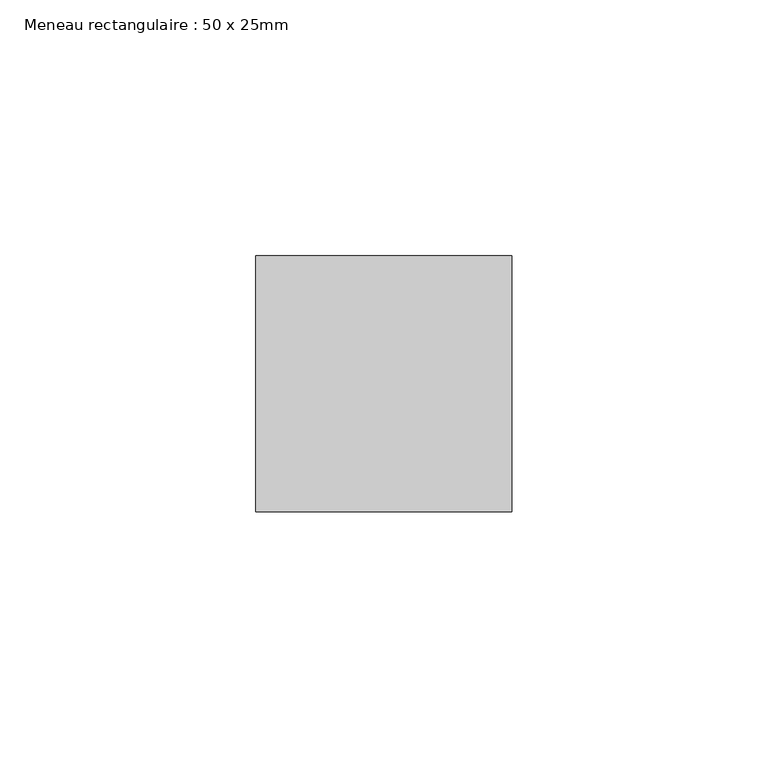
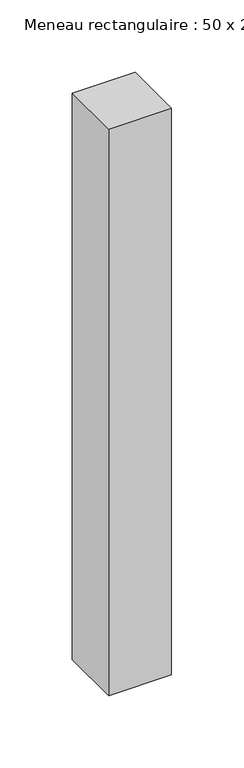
"""IFC4 building model written with IfcOpenShell, lengths in millimetres: member geometry, Meneau rectangulaire : 50 x 25mm."""

from ifc_helpers import new_model, si_unit, frame, origin, place, context, project, spatial, polyline, outline, extrude, source, transform, mapped, element, save


def meneau_rectangulaire_50_x_25mm_20f07069(model_context):
    return source(origin(), model_context, "Body", "SweptSolid", [
        extrude(outline(polyline([(25.0, 0.0), (25.0, -50.0), (-25.0, -50.0), (-25.0, 0.0), (25.0, 0.0)])), frame((0.0, 0.0, -477.0), z_axis=(0.0, 0.0, 1.0), x_axis=(1.0, 0.0, 0.0)), (0.0, 0.0, 1.0), 477.0),
    ])


if __name__ == "__main__":
    model = new_model("IFC4")
    model_context = context("Model", 3, world=origin())
    ifc_project = project(units=[si_unit("LENGTHUNIT", "METRE", prefix="MILLI")], contexts=[model_context])
    site = spatial("IfcSite", under=ifc_project)
    building = spatial("IfcBuilding", under=site)
    placement = place(None, origin())
    meneau_rectangulaire_50_x_25mm_shape = meneau_rectangulaire_50_x_25mm_20f07069(model_context)
    element("IfcMember", 1, ObjectType="Meneau rectangulaire : 50 x 25mm", at=placement, inside=building, context=model_context, shape_type="MappedRepresentation", body=[
        mapped(meneau_rectangulaire_50_x_25mm_shape, transform((0.0, 0.0, 0.0), x_axis=(1.0, 0.0, 0.0), y_axis=(0.0, 1.0, 0.0), z_axis=(0.0, 0.0, 1.0))),
    ])
    save(model, "model.ifc")
